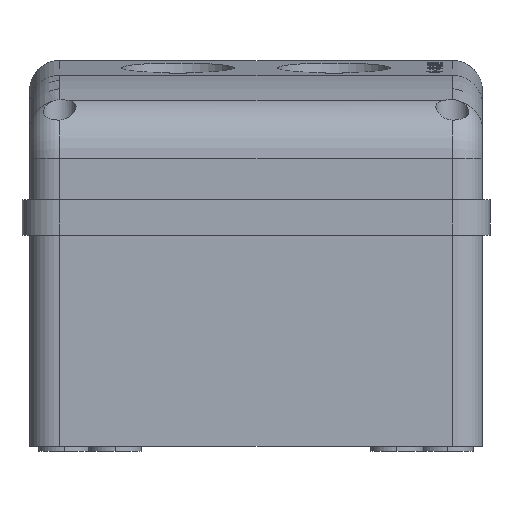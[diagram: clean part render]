
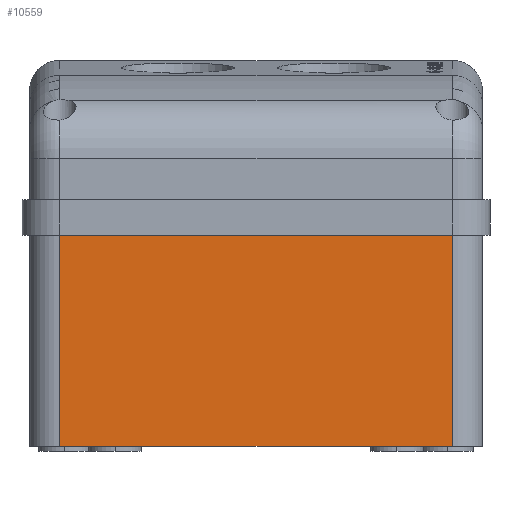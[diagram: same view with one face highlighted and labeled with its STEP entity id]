
A CAD part, left-side view. The second image highlights one B-rep face of the part: STEP entity #10559.
In plain terms, the highlighted planar face has unit normal (-1, 0, 0).
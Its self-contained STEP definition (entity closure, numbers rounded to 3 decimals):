
#486 = DIRECTION ( 'NONE',  ( 0., 0., 1. ) ) ;
#701 = VECTOR ( 'NONE', #5896, 1000. ) ;
#1711 = DIRECTION ( 'NONE',  ( 0., 0., -1. ) ) ;
#2044 = VECTOR ( 'NONE', #486, 1000. ) ;
#2129 = LINE ( 'NONE', #11242, #2044 ) ;
#2372 = CARTESIAN_POINT ( 'NONE',  ( -20., -39., 0. ) ) ;
#2927 = CARTESIAN_POINT ( 'NONE',  ( -20., 39., 0. ) ) ;
#3688 = VECTOR ( 'NONE', #10820, 1000. ) ;
#4154 = VERTEX_POINT ( 'NONE', #11974 ) ;
#4338 = EDGE_CURVE ( 'NONE', #11865, #5620, #2129, .T. ) ;
#4736 = ORIENTED_EDGE ( 'NONE', *, *, #4338, .T. ) ;
#4978 = PLANE ( 'NONE',  #16641 ) ;
#5189 = VERTEX_POINT ( 'NONE', #6898 ) ;
#5620 = VERTEX_POINT ( 'NONE', #5732 ) ;
#5732 = CARTESIAN_POINT ( 'NONE',  ( -20., -39., 44. ) ) ;
#5818 = ORIENTED_EDGE ( 'NONE', *, *, #12765, .F. ) ;
#5896 = DIRECTION ( 'NONE',  ( 0., -1., 0. ) ) ;
#6898 = CARTESIAN_POINT ( 'NONE',  ( -20., 39., 44. ) ) ;
#7133 = VECTOR ( 'NONE', #1711, 1000. ) ;
#8933 = DIRECTION ( 'NONE',  ( 1., 0., 0. ) ) ;
#9358 = LINE ( 'NONE', #2927, #7133 ) ;
#9436 = CARTESIAN_POINT ( 'NONE',  ( -20., 45., 0. ) ) ;
#10109 = LINE ( 'NONE', #11237, #701 ) ;
#10395 = ORIENTED_EDGE ( 'NONE', *, *, #16078, .T. ) ;
#10559 = ADVANCED_FACE ( 'NONE', ( #11522 ), #4978, .F. ) ;
#10820 = DIRECTION ( 'NONE',  ( 0., -1., 0. ) ) ;
#11237 = CARTESIAN_POINT ( 'NONE',  ( -20., 45., 44. ) ) ;
#11242 = CARTESIAN_POINT ( 'NONE',  ( -20., -39., 44. ) ) ;
#11522 = FACE_OUTER_BOUND ( 'NONE', #15832, .T. ) ;
#11597 = DIRECTION ( 'NONE',  ( 0., 0., -1. ) ) ;
#11865 = VERTEX_POINT ( 'NONE', #2372 ) ;
#11974 = CARTESIAN_POINT ( 'NONE',  ( -20., 39., 0. ) ) ;
#12368 = LINE ( 'NONE', #9436, #3688 ) ;
#12765 = EDGE_CURVE ( 'NONE', #5189, #5620, #10109, .T. ) ;
#12967 = CARTESIAN_POINT ( 'NONE',  ( -20., 45., 0. ) ) ;
#14366 = EDGE_CURVE ( 'NONE', #4154, #11865, #12368, .T. ) ;
#15593 = ORIENTED_EDGE ( 'NONE', *, *, #14366, .T. ) ;
#15832 = EDGE_LOOP ( 'NONE', ( #5818, #10395, #15593, #4736 ) ) ;
#16078 = EDGE_CURVE ( 'NONE', #5189, #4154, #9358, .T. ) ;
#16641 = AXIS2_PLACEMENT_3D ( 'NONE', #12967, #8933, #11597 ) ;
